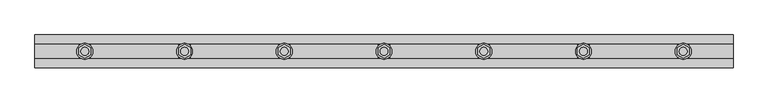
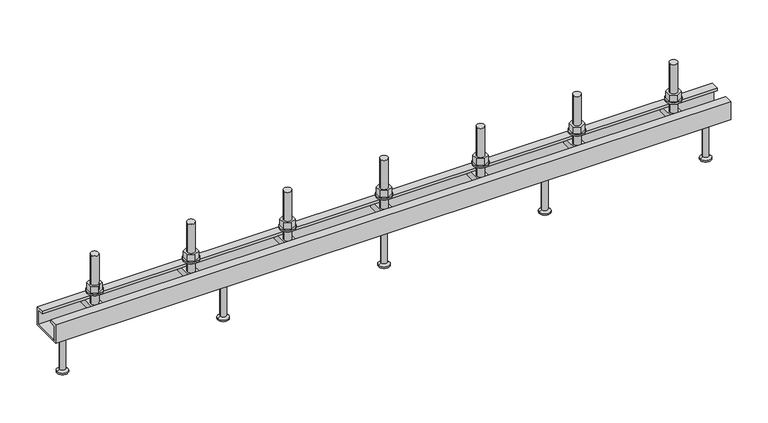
"""IFC4 building model written with IfcOpenShell, lengths in millimetres: fastener geometry, JTA-W JORDAHL® AnchorChannels : JTA-W L=1050 mm."""

from ifc_helpers import new_model, si_unit, point, frame, frame_2d, origin, place, context, project, spatial, polyline, circle_curve, trimmed, segment, composite_curve, outline, extrude, source, transform, mapped, element, save
from ifc_brep_helpers import plane_surface, cylinder_surface, revolved_surface, advanced_brep


def fastener_76e350a3(model_context):
    return source(origin(), model_context, "Body", "SolidModel", [
        extrude(outline(polyline([(825.0, -10.3923048), (816.0, -5.1961524), (816.0, 5.1961524), (825.0, 10.3923048), (834.0, 5.1961524), (834.0, -5.1961524), (825.0, -10.3923048)]), holes=[composite_curve([segment(trimmed(circle_curve(frame_2d((825.0, 0.0)), 6.0), [point((819.0, 0.0))], [point((831.0, 0.0))], True, "CARTESIAN"), True, "CONTINUOUS"), segment(trimmed(circle_curve(frame_2d((825.0, 0.0)), 6.0), [point((831.0, 0.0))], [point((819.0, 0.0))], True, "CARTESIAN"), True, "CONTINUOUS")], self_intersect=False)]), frame((0.0, 0.0, 17.5), z_axis=(0.0, 0.0, 1.0), x_axis=(1.0, 0.0, 0.0)), (0.0, 0.0, 1.0), 10.8),
        extrude(outline(composite_curve([segment(trimmed(circle_curve(frame_2d((825.0, 0.0)), 12.0), [point((813.0, 0.0))], [point((837.0, 0.0))], False, "CARTESIAN"), True, "CONTINUOUS"), segment(trimmed(circle_curve(frame_2d((825.0, 0.0)), 12.0), [point((837.0, 0.0))], [point((813.0, 0.0))], False, "CARTESIAN"), True, "CONTINUOUS")], self_intersect=False), holes=[composite_curve([segment(trimmed(circle_curve(frame_2d((825.0, 0.0)), 6.5), [point((818.5, 0.0))], [point((831.5, 0.0))], True, "CARTESIAN"), True, "CONTINUOUS"), segment(trimmed(circle_curve(frame_2d((825.0, 0.0)), 6.5), [point((831.5, 0.0))], [point((818.5, 0.0))], True, "CARTESIAN"), True, "CONTINUOUS")], self_intersect=False)]), frame((0.0, 0.0, 15.0), z_axis=(0.0, 0.0, 1.0), x_axis=(1.0, 0.0, 0.0)), (0.0, 0.0, 1.0), 2.5),
        extrude(outline(polyline([(675.0, -10.3923048), (666.0, -5.1961524), (666.0, 5.1961524), (675.0, 10.3923048), (684.0, 5.1961524), (684.0, -5.1961524), (675.0, -10.3923048)]), holes=[composite_curve([segment(trimmed(circle_curve(frame_2d((675.0, 0.0)), 6.0), [point((669.0, 0.0))], [point((681.0, 0.0))], True, "CARTESIAN"), True, "CONTINUOUS"), segment(trimmed(circle_curve(frame_2d((675.0, 0.0)), 6.0), [point((681.0, 0.0))], [point((669.0, 0.0))], True, "CARTESIAN"), True, "CONTINUOUS")], self_intersect=False)]), frame((0.0, 0.0, 17.5), z_axis=(0.0, 0.0, 1.0), x_axis=(1.0, 0.0, 0.0)), (0.0, 0.0, 1.0), 10.8),
        extrude(outline(composite_curve([segment(trimmed(circle_curve(frame_2d((675.0, 0.0)), 12.0), [point((663.0, 0.0))], [point((687.0, 0.0))], False, "CARTESIAN"), True, "CONTINUOUS"), segment(trimmed(circle_curve(frame_2d((675.0, 0.0)), 12.0), [point((687.0, 0.0))], [point((663.0, 0.0))], False, "CARTESIAN"), True, "CONTINUOUS")], self_intersect=False), holes=[composite_curve([segment(trimmed(circle_curve(frame_2d((675.0, 0.0)), 6.5), [point((668.5, 0.0))], [point((681.5, 0.0))], True, "CARTESIAN"), True, "CONTINUOUS"), segment(trimmed(circle_curve(frame_2d((675.0, 0.0)), 6.5), [point((681.5, 0.0))], [point((668.5, 0.0))], True, "CARTESIAN"), True, "CONTINUOUS")], self_intersect=False)]), frame((0.0, 0.0, 15.0), z_axis=(0.0, 0.0, 1.0), x_axis=(1.0, 0.0, 0.0)), (0.0, 0.0, 1.0), 2.5),
        extrude(outline(polyline([(525.0, -10.3923048), (516.0, -5.1961524), (516.0, 5.1961524), (525.0, 10.3923048), (534.0, 5.1961524), (534.0, -5.1961524), (525.0, -10.3923048)]), holes=[composite_curve([segment(trimmed(circle_curve(frame_2d((525.0, 0.0)), 6.0), [point((519.0, 0.0))], [point((531.0, 0.0))], True, "CARTESIAN"), True, "CONTINUOUS"), segment(trimmed(circle_curve(frame_2d((525.0, 0.0)), 6.0), [point((531.0, 0.0))], [point((519.0, 0.0))], True, "CARTESIAN"), True, "CONTINUOUS")], self_intersect=False)]), frame((0.0, 0.0, 17.5), z_axis=(0.0, 0.0, 1.0), x_axis=(1.0, 0.0, 0.0)), (0.0, 0.0, 1.0), 10.8),
        extrude(outline(composite_curve([segment(trimmed(circle_curve(frame_2d((525.0, 0.0)), 12.0), [point((513.0, 0.0))], [point((537.0, 0.0))], False, "CARTESIAN"), True, "CONTINUOUS"), segment(trimmed(circle_curve(frame_2d((525.0, 0.0)), 12.0), [point((537.0, 0.0))], [point((513.0, 0.0))], False, "CARTESIAN"), True, "CONTINUOUS")], self_intersect=False), holes=[composite_curve([segment(trimmed(circle_curve(frame_2d((525.0, 0.0)), 6.5), [point((518.5, 0.0))], [point((531.5, 0.0))], True, "CARTESIAN"), True, "CONTINUOUS"), segment(trimmed(circle_curve(frame_2d((525.0, 0.0)), 6.5), [point((531.5, 0.0))], [point((518.5, 0.0))], True, "CARTESIAN"), True, "CONTINUOUS")], self_intersect=False)]), frame((0.0, 0.0, 15.0), z_axis=(0.0, 0.0, 1.0), x_axis=(1.0, 0.0, 0.0)), (0.0, 0.0, 1.0), 2.5),
        extrude(outline(polyline([(375.0, -10.3923048), (366.0, -5.1961524), (366.0, 5.1961524), (375.0, 10.3923048), (384.0, 5.1961524), (384.0, -5.1961524), (375.0, -10.3923048)]), holes=[composite_curve([segment(trimmed(circle_curve(frame_2d((375.0, 0.0)), 6.0), [point((369.0, 0.0))], [point((381.0, 0.0))], True, "CARTESIAN"), True, "CONTINUOUS"), segment(trimmed(circle_curve(frame_2d((375.0, 0.0)), 6.0), [point((381.0, 0.0))], [point((369.0, 0.0))], True, "CARTESIAN"), True, "CONTINUOUS")], self_intersect=False)]), frame((0.0, 0.0, 17.5), z_axis=(0.0, 0.0, 1.0), x_axis=(1.0, 0.0, 0.0)), (0.0, 0.0, 1.0), 10.8),
        extrude(outline(composite_curve([segment(trimmed(circle_curve(frame_2d((375.0, 0.0)), 12.0), [point((363.0, 0.0))], [point((387.0, 0.0))], False, "CARTESIAN"), True, "CONTINUOUS"), segment(trimmed(circle_curve(frame_2d((375.0, 0.0)), 12.0), [point((387.0, 0.0))], [point((363.0, 0.0))], False, "CARTESIAN"), True, "CONTINUOUS")], self_intersect=False), holes=[composite_curve([segment(trimmed(circle_curve(frame_2d((375.0, 0.0)), 6.5), [point((368.5, 0.0))], [point((381.5, 0.0))], True, "CARTESIAN"), True, "CONTINUOUS"), segment(trimmed(circle_curve(frame_2d((375.0, 0.0)), 6.5), [point((381.5, 0.0))], [point((368.5, 0.0))], True, "CARTESIAN"), True, "CONTINUOUS")], self_intersect=False)]), frame((0.0, 0.0, 15.0), z_axis=(0.0, 0.0, 1.0), x_axis=(1.0, 0.0, 0.0)), (0.0, 0.0, 1.0), 2.5),
        extrude(outline(polyline([(225.0, -10.3923048), (216.0, -5.1961524), (216.0, 5.1961524), (225.0, 10.3923048), (234.0, 5.1961524), (234.0, -5.1961524), (225.0, -10.3923048)]), holes=[composite_curve([segment(trimmed(circle_curve(frame_2d((225.0, 0.0)), 6.0), [point((219.0, 0.0))], [point((231.0, 0.0))], True, "CARTESIAN"), True, "CONTINUOUS"), segment(trimmed(circle_curve(frame_2d((225.0, 0.0)), 6.0), [point((231.0, 0.0))], [point((219.0, 0.0))], True, "CARTESIAN"), True, "CONTINUOUS")], self_intersect=False)]), frame((0.0, 0.0, 17.5), z_axis=(0.0, 0.0, 1.0), x_axis=(1.0, 0.0, 0.0)), (0.0, 0.0, 1.0), 10.8),
        extrude(outline(composite_curve([segment(trimmed(circle_curve(frame_2d((225.0, 0.0)), 12.0), [point((213.0, 0.0))], [point((237.0, 0.0))], False, "CARTESIAN"), True, "CONTINUOUS"), segment(trimmed(circle_curve(frame_2d((225.0, 0.0)), 12.0), [point((237.0, 0.0))], [point((213.0, 0.0))], False, "CARTESIAN"), True, "CONTINUOUS")], self_intersect=False), holes=[composite_curve([segment(trimmed(circle_curve(frame_2d((225.0, 0.0)), 6.5), [point((218.5, 0.0))], [point((231.5, 0.0))], True, "CARTESIAN"), True, "CONTINUOUS"), segment(trimmed(circle_curve(frame_2d((225.0, 0.0)), 6.5), [point((231.5, 0.0))], [point((218.5, 0.0))], True, "CARTESIAN"), True, "CONTINUOUS")], self_intersect=False)]), frame((0.0, 0.0, 15.0), z_axis=(0.0, 0.0, 1.0), x_axis=(1.0, 0.0, 0.0)), (0.0, 0.0, 1.0), 2.5),
        advanced_brep(
        [(833.5, -20.7, -4.0), (833.5, -20.7, -14.0), (833.5, 20.7, -14.0), (833.5, 20.7, -4.0), (816.5, -20.7, -4.0), (816.5, 20.7, -4.0), (816.5, 20.7, -14.0), (816.5, -20.7, -14.0), (831.0, 0.0, -4.0), (819.0, 0.0, -4.0), (819.0, 0.0, 76.0), (831.0, 0.0, 76.0)],
        [
            (0, 1),
            (1, 2),
            (2, 3),
            (3, 0),
            (4, 5),
            (5, 6),
            (6, 7),
            (7, 4),
            (3, 5),
            (4, 0),
            (8, 9, circle_curve(frame((825.0, 0.0, -4.0), z_axis=(0.0, 0.0, -1.0), x_axis=(1.0, 0.0, 0.0)), 6.0)),
            (9, 8, circle_curve(frame((825.0, 0.0, -4.0), z_axis=(0.0, 0.0, -1.0), x_axis=(1.0, 0.0, 0.0)), 6.0)),
            (2, 6),
            (1, 7),
            (10, 11, circle_curve(frame((825.0, 0.0, 76.0), z_axis=(0.0, 0.0, 1.0), x_axis=(1.0, 0.0, 0.0)), 6.0)),
            (11, 10, circle_curve(frame((825.0, 0.0, 76.0), z_axis=(0.0, 0.0, 1.0), x_axis=(1.0, 0.0, 0.0)), 6.0)),
            (11, 8),
            (9, 10),
        ],
        [
            plane_surface(frame((833.5, 20.7, -4.0), z_axis=(1.0, 0.0, 0.0), x_axis=(0.0, 1.0, 0.0))),
            plane_surface(frame((816.5, 20.7, -4.0), z_axis=(-1.0, 0.0, 0.0), x_axis=(0.0, -1.0, 0.0))),
            plane_surface(frame((833.5, -20.7, -4.0), z_axis=(0.0, 0.0, 1.0), x_axis=(-1.0, 0.0, 0.0))),
            plane_surface(frame((833.5, 20.7, -4.0), z_axis=(0.0, 1.0, 0.0), x_axis=(-1.0, 0.0, 0.0))),
            plane_surface(frame((833.5, 20.7, -14.0), z_axis=(0.0, 0.0, -1.0), x_axis=(-1.0, 0.0, 0.0))),
            plane_surface(frame((833.5, -20.7, -14.0), z_axis=(0.0, -1.0, 0.0), x_axis=(-1.0, 0.0, 0.0))),
            plane_surface(frame((831.0, 0.0, 76.0), z_axis=(0.0, 0.0, 1.0), x_axis=(0.0, -1.0, 0.0))),
            cylinder_surface(frame((825.0, 0.0, -4.0), z_axis=(0.0, 0.0, 1.0), x_axis=(1.0, 0.0, 0.0)), 6.0),
        ],
        [
            (0, [[1, 2, 3, 4]]),
            (1, [[5, 6, 7, 8]]),
            (2, [[9, -5, 10, -4], [11, 12]]),
            (3, [[13, -6, -9, -3]]),
            (4, [[14, -7, -13, -2]]),
            (5, [[-10, -8, -14, -1]]),
            (6, [[15, 16]]),
            (7, [[17, -12, 18, -16]]),
            (7, [[-18, -11, -17, -15]]),
        ],
    ),
        advanced_brep(
        [(683.5, -20.7, -4.0), (683.5, -20.7, -14.0), (683.5, 20.7, -14.0), (683.5, 20.7, -4.0), (666.5, -20.7, -4.0), (666.5, 20.7, -4.0), (666.5, 20.7, -14.0), (666.5, -20.7, -14.0), (681.0, 0.0, -4.0), (669.0, 0.0, -4.0), (669.0, 0.0, 76.0), (681.0, 0.0, 76.0)],
        [
            (0, 1),
            (1, 2),
            (2, 3),
            (3, 0),
            (4, 5),
            (5, 6),
            (6, 7),
            (7, 4),
            (3, 5),
            (4, 0),
            (8, 9, circle_curve(frame((675.0, 0.0, -4.0), z_axis=(0.0, 0.0, -1.0), x_axis=(1.0, 0.0, 0.0)), 6.0)),
            (9, 8, circle_curve(frame((675.0, 0.0, -4.0), z_axis=(0.0, 0.0, -1.0), x_axis=(1.0, 0.0, 0.0)), 6.0)),
            (2, 6),
            (1, 7),
            (10, 11, circle_curve(frame((675.0, 0.0, 76.0), z_axis=(0.0, 0.0, 1.0), x_axis=(1.0, 0.0, 0.0)), 6.0)),
            (11, 10, circle_curve(frame((675.0, 0.0, 76.0), z_axis=(0.0, 0.0, 1.0), x_axis=(1.0, 0.0, 0.0)), 6.0)),
            (11, 8),
            (9, 10),
        ],
        [
            plane_surface(frame((683.5, 20.7, -4.0), z_axis=(1.0, 0.0, 0.0), x_axis=(0.0, 1.0, 0.0))),
            plane_surface(frame((666.5, 20.7, -4.0), z_axis=(-1.0, 0.0, 0.0), x_axis=(0.0, -1.0, 0.0))),
            plane_surface(frame((683.5, -20.7, -4.0), z_axis=(0.0, 0.0, 1.0), x_axis=(-1.0, 0.0, 0.0))),
            plane_surface(frame((683.5, 20.7, -4.0), z_axis=(0.0, 1.0, 0.0), x_axis=(-1.0, 0.0, 0.0))),
            plane_surface(frame((683.5, 20.7, -14.0), z_axis=(0.0, 0.0, -1.0), x_axis=(-1.0, 0.0, 0.0))),
            plane_surface(frame((683.5, -20.7, -14.0), z_axis=(0.0, -1.0, 0.0), x_axis=(-1.0, 0.0, 0.0))),
            plane_surface(frame((681.0, 0.0, 76.0), z_axis=(0.0, 0.0, 1.0), x_axis=(0.0, -1.0, 0.0))),
            cylinder_surface(frame((675.0, 0.0, -4.0), z_axis=(0.0, 0.0, 1.0), x_axis=(1.0, 0.0, 0.0)), 6.0),
        ],
        [
            (0, [[1, 2, 3, 4]]),
            (1, [[5, 6, 7, 8]]),
            (2, [[9, -5, 10, -4], [11, 12]]),
            (3, [[13, -6, -9, -3]]),
            (4, [[14, -7, -13, -2]]),
            (5, [[-10, -8, -14, -1]]),
            (6, [[15, 16]]),
            (7, [[17, -12, 18, -16]]),
            (7, [[-18, -11, -17, -15]]),
        ],
    ),
        advanced_brep(
        [(533.5, -20.7, -4.0), (533.5, -20.7, -14.0), (533.5, 20.7, -14.0), (533.5, 20.7, -4.0), (516.5, -20.7, -4.0), (516.5, 20.7, -4.0), (516.5, 20.7, -14.0), (516.5, -20.7, -14.0), (531.0, 0.0, -4.0), (519.0, 0.0, -4.0), (519.0, 0.0, 76.0), (531.0, 0.0, 76.0)],
        [
            (0, 1),
            (1, 2),
            (2, 3),
            (3, 0),
            (4, 5),
            (5, 6),
            (6, 7),
            (7, 4),
            (3, 5),
            (4, 0),
            (8, 9, circle_curve(frame((525.0, 0.0, -4.0), z_axis=(0.0, 0.0, -1.0), x_axis=(1.0, 0.0, 0.0)), 6.0)),
            (9, 8, circle_curve(frame((525.0, 0.0, -4.0), z_axis=(0.0, 0.0, -1.0), x_axis=(1.0, 0.0, 0.0)), 6.0)),
            (2, 6),
            (1, 7),
            (10, 11, circle_curve(frame((525.0, 0.0, 76.0), z_axis=(0.0, 0.0, 1.0), x_axis=(1.0, 0.0, 0.0)), 6.0)),
            (11, 10, circle_curve(frame((525.0, 0.0, 76.0), z_axis=(0.0, 0.0, 1.0), x_axis=(1.0, 0.0, 0.0)), 6.0)),
            (11, 8),
            (9, 10),
        ],
        [
            plane_surface(frame((533.5, 20.7, -4.0), z_axis=(1.0, 0.0, 0.0), x_axis=(0.0, 1.0, 0.0))),
            plane_surface(frame((516.5, 20.7, -4.0), z_axis=(-1.0, 0.0, 0.0), x_axis=(0.0, -1.0, 0.0))),
            plane_surface(frame((533.5, -20.7, -4.0), z_axis=(0.0, 0.0, 1.0), x_axis=(-1.0, 0.0, 0.0))),
            plane_surface(frame((533.5, 20.7, -4.0), z_axis=(0.0, 1.0, 0.0), x_axis=(-1.0, 0.0, 0.0))),
            plane_surface(frame((533.5, 20.7, -14.0), z_axis=(0.0, 0.0, -1.0), x_axis=(-1.0, 0.0, 0.0))),
            plane_surface(frame((533.5, -20.7, -14.0), z_axis=(0.0, -1.0, 0.0), x_axis=(-1.0, 0.0, 0.0))),
            plane_surface(frame((531.0, 0.0, 76.0), z_axis=(0.0, 0.0, 1.0), x_axis=(0.0, -1.0, 0.0))),
            cylinder_surface(frame((525.0, 0.0, -4.0), z_axis=(0.0, 0.0, 1.0), x_axis=(1.0, 0.0, 0.0)), 6.0),
        ],
        [
            (0, [[1, 2, 3, 4]]),
            (1, [[5, 6, 7, 8]]),
            (2, [[9, -5, 10, -4], [11, 12]]),
            (3, [[13, -6, -9, -3]]),
            (4, [[14, -7, -13, -2]]),
            (5, [[-10, -8, -14, -1]]),
            (6, [[15, 16]]),
            (7, [[17, -12, 18, -16]]),
            (7, [[-18, -11, -17, -15]]),
        ],
    ),
        advanced_brep(
        [(383.5, -20.7, -4.0), (383.5, -20.7, -14.0), (383.5, 20.7, -14.0), (383.5, 20.7, -4.0), (366.5, -20.7, -4.0), (366.5, 20.7, -4.0), (366.5, 20.7, -14.0), (366.5, -20.7, -14.0), (381.0, 0.0, -4.0), (369.0, 0.0, -4.0), (369.0, 0.0, 76.0), (381.0, 0.0, 76.0)],
        [
            (0, 1),
            (1, 2),
            (2, 3),
            (3, 0),
            (4, 5),
            (5, 6),
            (6, 7),
            (7, 4),
            (3, 5),
            (4, 0),
            (8, 9, circle_curve(frame((375.0, 0.0, -4.0), z_axis=(0.0, 0.0, -1.0), x_axis=(1.0, 0.0, 0.0)), 6.0)),
            (9, 8, circle_curve(frame((375.0, 0.0, -4.0), z_axis=(0.0, 0.0, -1.0), x_axis=(1.0, 0.0, 0.0)), 6.0)),
            (2, 6),
            (1, 7),
            (10, 11, circle_curve(frame((375.0, 0.0, 76.0), z_axis=(0.0, 0.0, 1.0), x_axis=(1.0, 0.0, 0.0)), 6.0)),
            (11, 10, circle_curve(frame((375.0, 0.0, 76.0), z_axis=(0.0, 0.0, 1.0), x_axis=(1.0, 0.0, 0.0)), 6.0)),
            (11, 8),
            (9, 10),
        ],
        [
            plane_surface(frame((383.5, 20.7, -4.0), z_axis=(1.0, 0.0, 0.0), x_axis=(0.0, 1.0, 0.0))),
            plane_surface(frame((366.5, 20.7, -4.0), z_axis=(-1.0, 0.0, 0.0), x_axis=(0.0, -1.0, 0.0))),
            plane_surface(frame((383.5, -20.7, -4.0), z_axis=(0.0, 0.0, 1.0), x_axis=(-1.0, 0.0, 0.0))),
            plane_surface(frame((383.5, 20.7, -4.0), z_axis=(0.0, 1.0, 0.0), x_axis=(-1.0, 0.0, 0.0))),
            plane_surface(frame((383.5, 20.7, -14.0), z_axis=(0.0, 0.0, -1.0), x_axis=(-1.0, 0.0, 0.0))),
            plane_surface(frame((383.5, -20.7, -14.0), z_axis=(0.0, -1.0, 0.0), x_axis=(-1.0, 0.0, 0.0))),
            plane_surface(frame((381.0, 0.0, 76.0), z_axis=(0.0, 0.0, 1.0), x_axis=(0.0, -1.0, 0.0))),
            cylinder_surface(frame((375.0, 0.0, -4.0), z_axis=(0.0, 0.0, 1.0), x_axis=(1.0, 0.0, 0.0)), 6.0),
        ],
        [
            (0, [[1, 2, 3, 4]]),
            (1, [[5, 6, 7, 8]]),
            (2, [[9, -5, 10, -4], [11, 12]]),
            (3, [[13, -6, -9, -3]]),
            (4, [[14, -7, -13, -2]]),
            (5, [[-10, -8, -14, -1]]),
            (6, [[15, 16]]),
            (7, [[17, -12, 18, -16]]),
            (7, [[-18, -11, -17, -15]]),
        ],
    ),
        advanced_brep(
        [(233.5, -20.7, -4.0), (233.5, -20.7, -14.0), (233.5, 20.7, -14.0), (233.5, 20.7, -4.0), (216.5, -20.7, -4.0), (216.5, 20.7, -4.0), (216.5, 20.7, -14.0), (216.5, -20.7, -14.0), (231.0, 0.0, -4.0), (219.0, 0.0, -4.0), (219.0, 0.0, 76.0), (231.0, 0.0, 76.0)],
        [
            (0, 1),
            (1, 2),
            (2, 3),
            (3, 0),
            (4, 5),
            (5, 6),
            (6, 7),
            (7, 4),
            (3, 5),
            (4, 0),
            (8, 9, circle_curve(frame((225.0, 0.0, -4.0), z_axis=(0.0, 0.0, -1.0), x_axis=(1.0, 0.0, 0.0)), 6.0)),
            (9, 8, circle_curve(frame((225.0, 0.0, -4.0), z_axis=(0.0, 0.0, -1.0), x_axis=(1.0, 0.0, 0.0)), 6.0)),
            (2, 6),
            (1, 7),
            (10, 11, circle_curve(frame((225.0, 0.0, 76.0), z_axis=(0.0, 0.0, 1.0), x_axis=(1.0, 0.0, 0.0)), 6.0)),
            (11, 10, circle_curve(frame((225.0, 0.0, 76.0), z_axis=(0.0, 0.0, 1.0), x_axis=(1.0, 0.0, 0.0)), 6.0)),
            (11, 8),
            (9, 10),
        ],
        [
            plane_surface(frame((233.5, 20.7, -4.0), z_axis=(1.0, 0.0, 0.0), x_axis=(0.0, 1.0, 0.0))),
            plane_surface(frame((216.5, 20.7, -4.0), z_axis=(-1.0, 0.0, 0.0), x_axis=(0.0, -1.0, 0.0))),
            plane_surface(frame((233.5, -20.7, -4.0), z_axis=(0.0, 0.0, 1.0), x_axis=(-1.0, 0.0, 0.0))),
            plane_surface(frame((233.5, 20.7, -4.0), z_axis=(0.0, 1.0, 0.0), x_axis=(-1.0, 0.0, 0.0))),
            plane_surface(frame((233.5, 20.7, -14.0), z_axis=(0.0, 0.0, -1.0), x_axis=(-1.0, 0.0, 0.0))),
            plane_surface(frame((233.5, -20.7, -14.0), z_axis=(0.0, -1.0, 0.0), x_axis=(-1.0, 0.0, 0.0))),
            plane_surface(frame((231.0, 0.0, 76.0), z_axis=(0.0, 0.0, 1.0), x_axis=(0.0, -1.0, 0.0))),
            cylinder_surface(frame((225.0, 0.0, -4.0), z_axis=(0.0, 0.0, 1.0), x_axis=(1.0, 0.0, 0.0)), 6.0),
        ],
        [
            (0, [[1, 2, 3, 4]]),
            (1, [[5, 6, 7, 8]]),
            (2, [[9, -5, 10, -4], [11, 12]]),
            (3, [[13, -6, -9, -3]]),
            (4, [[14, -7, -13, -2]]),
            (5, [[-10, -8, -14, -1]]),
            (6, [[15, 16]]),
            (7, [[17, -12, 18, -16]]),
            (7, [[-18, -11, -17, -15]]),
        ],
    ),
        advanced_brep(
        [(775.0, 0.0, -30.0), (761.5, 0.0, -30.0), (788.5, 0.0, -30.0), (766.5, 0.0, -100.0), (775.0, 0.0, -100.0), (783.5, 0.0, -100.0), (766.5, 0.0, -98.0), (783.5, 0.0, -98.0), (770.5, 0.0, -95.6905989), (779.5, 0.0, -95.6905989), (770.5, 0.0, -32.5), (779.5, 0.0, -32.5)],
        [
            (0, 1),
            (1, 2, circle_curve(frame((775.0, 0.0, -30.0), z_axis=(0.0, 0.0, 1.0), x_axis=(1.0, 0.0, 0.0)), 13.5)),
            (2, 0),
            (2, 1, circle_curve(frame((775.0, 0.0, -30.0), z_axis=(0.0, 0.0, 1.0), x_axis=(1.0, 0.0, 0.0)), 13.5)),
            (3, 4),
            (4, 5),
            (5, 3, circle_curve(frame((775.0, 0.0, -100.0), z_axis=(0.0, 0.0, -1.0), x_axis=(1.0, 0.0, 0.0)), 8.5)),
            (3, 5, circle_curve(frame((775.0, 0.0, -100.0), z_axis=(0.0, 0.0, -1.0), x_axis=(1.0, 0.0, 0.0)), 8.5)),
            (6, 3),
            (5, 7),
            (7, 6, circle_curve(frame((775.0, 0.0, -98.0), z_axis=(0.0, 0.0, -1.0), x_axis=(1.0, 0.0, 0.0)), 8.5)),
            (6, 7, circle_curve(frame((775.0, 0.0, -98.0), z_axis=(0.0, 0.0, -1.0), x_axis=(1.0, 0.0, 0.0)), 8.5)),
            (8, 6),
            (7, 9),
            (9, 8, circle_curve(frame((775.0, 0.0, -95.6905989), z_axis=(0.0, 0.0, -1.0), x_axis=(1.0, 0.0, 0.0)), 4.5)),
            (8, 9, circle_curve(frame((775.0, 0.0, -95.6905989), z_axis=(0.0, 0.0, -1.0), x_axis=(1.0, 0.0, 0.0)), 4.5)),
            (10, 8),
            (9, 11),
            (11, 10, circle_curve(frame((775.0, 0.0, -32.5), z_axis=(0.0, 0.0, -1.0), x_axis=(1.0, 0.0, 0.0)), 4.5)),
            (10, 11, circle_curve(frame((775.0, 0.0, -32.5), z_axis=(0.0, 0.0, -1.0), x_axis=(1.0, 0.0, 0.0)), 4.5)),
            (1, 10),
            (11, 2),
        ],
        [
            plane_surface(frame((775.0, 0.0, -30.0), z_axis=(0.0, 0.0, 1.0), x_axis=(1.0, 0.0, 0.0))),
            plane_surface(frame((775.0, 0.0, -100.0), z_axis=(0.0, 0.0, -1.0), x_axis=(1.0, 0.0, 0.0))),
            cylinder_surface(frame((775.0, 0.0, 2284.3150031), z_axis=(0.0, 0.0, 1.0), x_axis=(1.0, 0.0, 0.0)), 8.5),
            revolved_surface(polyline([(783.5, 0.0, -98.0), (779.5, 0.0, -95.6905989)]), (775.0, 0.0, 2284.3150031), (0.0, 0.0, 1.0)),
            cylinder_surface(frame((775.0, 0.0, 2284.3150031), z_axis=(0.0, 0.0, 1.0), x_axis=(1.0, 0.0, 0.0)), 4.5),
            revolved_surface(polyline([(779.5, 0.0, -32.5), (788.5, 0.0, -30.0)]), (775.0, 0.0, 2284.3150031), (0.0, 0.0, 1.0)),
        ],
        [
            (0, [[1, 2, 3]]),
            (0, [[-3, 4, -1]]),
            (1, [[5, 6, 7]]),
            (1, [[-6, -5, 8]]),
            (2, [[9, -7, 10, 11]]),
            (2, [[-10, -8, -9, 12]]),
            (3, [[13, -11, 14, 15]]),
            (3, [[-14, -12, -13, 16]]),
            (4, [[17, -15, 18, 19]]),
            (4, [[-18, -16, -17, 20]]),
            (5, [[21, -19, 22, -2]]),
            (5, [[-22, -20, -21, -4]]),
        ],
    ),
        advanced_brep(
        [(525.0, 0.0, -30.0), (511.5, 0.0, -30.0), (538.5, 0.0, -30.0), (516.5, 0.0, -100.0), (525.0, 0.0, -100.0), (533.5, 0.0, -100.0), (516.5, 0.0, -98.0), (533.5, 0.0, -98.0), (520.5, 0.0, -95.6905989), (529.5, 0.0, -95.6905989), (520.5, 0.0, -32.5), (529.5, 0.0, -32.5)],
        [
            (0, 1),
            (1, 2, circle_curve(frame((525.0, 0.0, -30.0), z_axis=(0.0, 0.0, 1.0), x_axis=(1.0, 0.0, 0.0)), 13.5)),
            (2, 0),
            (2, 1, circle_curve(frame((525.0, 0.0, -30.0), z_axis=(0.0, 0.0, 1.0), x_axis=(1.0, 0.0, 0.0)), 13.5)),
            (3, 4),
            (4, 5),
            (5, 3, circle_curve(frame((525.0, 0.0, -100.0), z_axis=(0.0, 0.0, -1.0), x_axis=(1.0, 0.0, 0.0)), 8.5)),
            (3, 5, circle_curve(frame((525.0, 0.0, -100.0), z_axis=(0.0, 0.0, -1.0), x_axis=(1.0, 0.0, 0.0)), 8.5)),
            (6, 3),
            (5, 7),
            (7, 6, circle_curve(frame((525.0, 0.0, -98.0), z_axis=(0.0, 0.0, -1.0), x_axis=(1.0, 0.0, 0.0)), 8.5)),
            (6, 7, circle_curve(frame((525.0, 0.0, -98.0), z_axis=(0.0, 0.0, -1.0), x_axis=(1.0, 0.0, 0.0)), 8.5)),
            (8, 6),
            (7, 9),
            (9, 8, circle_curve(frame((525.0, 0.0, -95.6905989), z_axis=(0.0, 0.0, -1.0), x_axis=(1.0, 0.0, 0.0)), 4.5)),
            (8, 9, circle_curve(frame((525.0, 0.0, -95.6905989), z_axis=(0.0, 0.0, -1.0), x_axis=(1.0, 0.0, 0.0)), 4.5)),
            (10, 8),
            (9, 11),
            (11, 10, circle_curve(frame((525.0, 0.0, -32.5), z_axis=(0.0, 0.0, -1.0), x_axis=(1.0, 0.0, 0.0)), 4.5)),
            (10, 11, circle_curve(frame((525.0, 0.0, -32.5), z_axis=(0.0, 0.0, -1.0), x_axis=(1.0, 0.0, 0.0)), 4.5)),
            (1, 10),
            (11, 2),
        ],
        [
            plane_surface(frame((525.0, 0.0, -30.0), z_axis=(0.0, 0.0, 1.0), x_axis=(1.0, 0.0, 0.0))),
            plane_surface(frame((525.0, 0.0, -100.0), z_axis=(0.0, 0.0, -1.0), x_axis=(1.0, 0.0, 0.0))),
            cylinder_surface(frame((525.0, 0.0, 2284.3150031), z_axis=(0.0, 0.0, 1.0), x_axis=(1.0, 0.0, 0.0)), 8.5),
            revolved_surface(polyline([(533.5, 0.0, -98.0), (529.5, 0.0, -95.6905989)]), (525.0, 0.0, 2284.3150031), (0.0, 0.0, 1.0)),
            cylinder_surface(frame((525.0, 0.0, 2284.3150031), z_axis=(0.0, 0.0, 1.0), x_axis=(1.0, 0.0, 0.0)), 4.5),
            revolved_surface(polyline([(529.5, 0.0, -32.5), (538.5, 0.0, -30.0)]), (525.0, 0.0, 2284.3150031), (0.0, 0.0, 1.0)),
        ],
        [
            (0, [[1, 2, 3]]),
            (0, [[-3, 4, -1]]),
            (1, [[5, 6, 7]]),
            (1, [[-6, -5, 8]]),
            (2, [[9, -7, 10, 11]]),
            (2, [[-10, -8, -9, 12]]),
            (3, [[13, -11, 14, 15]]),
            (3, [[-14, -12, -13, 16]]),
            (4, [[17, -15, 18, 19]]),
            (4, [[-18, -16, -17, 20]]),
            (5, [[21, -19, 22, -2]]),
            (5, [[-22, -20, -21, -4]]),
        ],
    ),
        advanced_brep(
        [(275.0, 0.0, -30.0), (261.5, 0.0, -30.0), (288.5, 0.0, -30.0), (266.5, 0.0, -100.0), (275.0, 0.0, -100.0), (283.5, 0.0, -100.0), (266.5, 0.0, -98.0), (283.5, 0.0, -98.0), (270.5, 0.0, -95.6905989), (279.5, 0.0, -95.6905989), (270.5, 0.0, -32.5), (279.5, 0.0, -32.5)],
        [
            (0, 1),
            (1, 2, circle_curve(frame((275.0, 0.0, -30.0), z_axis=(0.0, 0.0, 1.0), x_axis=(1.0, 0.0, 0.0)), 13.5)),
            (2, 0),
            (2, 1, circle_curve(frame((275.0, 0.0, -30.0), z_axis=(0.0, 0.0, 1.0), x_axis=(1.0, 0.0, 0.0)), 13.5)),
            (3, 4),
            (4, 5),
            (5, 3, circle_curve(frame((275.0, 0.0, -100.0), z_axis=(0.0, 0.0, -1.0), x_axis=(1.0, 0.0, 0.0)), 8.5)),
            (3, 5, circle_curve(frame((275.0, 0.0, -100.0), z_axis=(0.0, 0.0, -1.0), x_axis=(1.0, 0.0, 0.0)), 8.5)),
            (6, 3),
            (5, 7),
            (7, 6, circle_curve(frame((275.0, 0.0, -98.0), z_axis=(0.0, 0.0, -1.0), x_axis=(1.0, 0.0, 0.0)), 8.5)),
            (6, 7, circle_curve(frame((275.0, 0.0, -98.0), z_axis=(0.0, 0.0, -1.0), x_axis=(1.0, 0.0, 0.0)), 8.5)),
            (8, 6),
            (7, 9),
            (9, 8, circle_curve(frame((275.0, 0.0, -95.6905989), z_axis=(0.0, 0.0, -1.0), x_axis=(1.0, 0.0, 0.0)), 4.5)),
            (8, 9, circle_curve(frame((275.0, 0.0, -95.6905989), z_axis=(0.0, 0.0, -1.0), x_axis=(1.0, 0.0, 0.0)), 4.5)),
            (10, 8),
            (9, 11),
            (11, 10, circle_curve(frame((275.0, 0.0, -32.5), z_axis=(0.0, 0.0, -1.0), x_axis=(1.0, 0.0, 0.0)), 4.5)),
            (10, 11, circle_curve(frame((275.0, 0.0, -32.5), z_axis=(0.0, 0.0, -1.0), x_axis=(1.0, 0.0, 0.0)), 4.5)),
            (1, 10),
            (11, 2),
        ],
        [
            plane_surface(frame((275.0, 0.0, -30.0), z_axis=(0.0, 0.0, 1.0), x_axis=(1.0, 0.0, 0.0))),
            plane_surface(frame((275.0, 0.0, -100.0), z_axis=(0.0, 0.0, -1.0), x_axis=(1.0, 0.0, 0.0))),
            cylinder_surface(frame((275.0, 0.0, 2284.3150031), z_axis=(0.0, 0.0, 1.0), x_axis=(1.0, 0.0, 0.0)), 8.5),
            revolved_surface(polyline([(283.5, 0.0, -98.0), (279.5, 0.0, -95.6905989)]), (275.0, 0.0, 2284.3150031), (0.0, 0.0, 1.0)),
            cylinder_surface(frame((275.0, 0.0, 2284.3150031), z_axis=(0.0, 0.0, 1.0), x_axis=(1.0, 0.0, 0.0)), 4.5),
            revolved_surface(polyline([(279.5, 0.0, -32.5), (288.5, 0.0, -30.0)]), (275.0, 0.0, 2284.3150031), (0.0, 0.0, 1.0)),
        ],
        [
            (0, [[1, 2, 3]]),
            (0, [[-3, 4, -1]]),
            (1, [[5, 6, 7]]),
            (1, [[-6, -5, 8]]),
            (2, [[9, -7, 10, 11]]),
            (2, [[-10, -8, -9, 12]]),
            (3, [[13, -11, 14, 15]]),
            (3, [[-14, -12, -13, 16]]),
            (4, [[17, -15, 18, 19]]),
            (4, [[-18, -16, -17, 20]]),
            (5, [[21, -19, 22, -2]]),
            (5, [[-22, -20, -21, -4]]),
        ],
    ),
        extrude(outline(polyline([(975.0, -10.3923048), (966.0, -5.1961524), (966.0, 5.1961524), (975.0, 10.3923048), (984.0, 5.1961524), (984.0, -5.1961524), (975.0, -10.3923048)]), holes=[composite_curve([segment(trimmed(circle_curve(frame_2d((975.0, 0.0)), 6.0), [point((969.0, 0.0))], [point((981.0, 0.0))], True, "CARTESIAN"), True, "CONTINUOUS"), segment(trimmed(circle_curve(frame_2d((975.0, 0.0)), 6.0), [point((981.0, 0.0))], [point((969.0, 0.0))], True, "CARTESIAN"), True, "CONTINUOUS")], self_intersect=False)]), frame((0.0, 0.0, 17.5), z_axis=(0.0, 0.0, 1.0), x_axis=(1.0, 0.0, 0.0)), (0.0, 0.0, 1.0), 10.8),
        extrude(outline(composite_curve([segment(trimmed(circle_curve(frame_2d((975.0, 0.0)), 12.0), [point((963.0, 0.0))], [point((987.0, 0.0))], False, "CARTESIAN"), True, "CONTINUOUS"), segment(trimmed(circle_curve(frame_2d((975.0, 0.0)), 12.0), [point((987.0, 0.0))], [point((963.0, 0.0))], False, "CARTESIAN"), True, "CONTINUOUS")], self_intersect=False), holes=[composite_curve([segment(trimmed(circle_curve(frame_2d((975.0, 0.0)), 6.5), [point((968.5, 0.0))], [point((981.5, 0.0))], True, "CARTESIAN"), True, "CONTINUOUS"), segment(trimmed(circle_curve(frame_2d((975.0, 0.0)), 6.5), [point((981.5, 0.0))], [point((968.5, 0.0))], True, "CARTESIAN"), True, "CONTINUOUS")], self_intersect=False)]), frame((0.0, 0.0, 15.0), z_axis=(0.0, 0.0, 1.0), x_axis=(1.0, 0.0, 0.0)), (0.0, 0.0, 1.0), 2.5),
        extrude(outline(polyline([(75.0, -10.3923048), (66.0, -5.1961524), (66.0, 5.1961524), (75.0, 10.3923048), (84.0, 5.1961524), (84.0, -5.1961524), (75.0, -10.3923048)]), holes=[composite_curve([segment(trimmed(circle_curve(frame_2d((75.0, 0.0)), 6.0), [point((69.0, 0.0))], [point((81.0, 0.0))], True, "CARTESIAN"), True, "CONTINUOUS"), segment(trimmed(circle_curve(frame_2d((75.0, 0.0)), 6.0), [point((81.0, 0.0))], [point((69.0, 0.0))], True, "CARTESIAN"), True, "CONTINUOUS")], self_intersect=False)]), frame((0.0, 0.0, 17.5), z_axis=(0.0, 0.0, 1.0), x_axis=(1.0, 0.0, 0.0)), (0.0, 0.0, 1.0), 10.8),
        extrude(outline(composite_curve([segment(trimmed(circle_curve(frame_2d((75.0, 0.0)), 12.0), [point((63.0, 0.0))], [point((87.0, 0.0))], False, "CARTESIAN"), True, "CONTINUOUS"), segment(trimmed(circle_curve(frame_2d((75.0, 0.0)), 12.0), [point((87.0, 0.0))], [point((63.0, 0.0))], False, "CARTESIAN"), True, "CONTINUOUS")], self_intersect=False), holes=[composite_curve([segment(trimmed(circle_curve(frame_2d((75.0, 0.0)), 6.5), [point((68.5, 0.0))], [point((81.5, 0.0))], True, "CARTESIAN"), True, "CONTINUOUS"), segment(trimmed(circle_curve(frame_2d((75.0, 0.0)), 6.5), [point((81.5, 0.0))], [point((68.5, 0.0))], True, "CARTESIAN"), True, "CONTINUOUS")], self_intersect=False)]), frame((0.0, 0.0, 15.0), z_axis=(0.0, 0.0, 1.0), x_axis=(1.0, 0.0, 0.0)), (0.0, 0.0, 1.0), 2.5),
        advanced_brep(
        [(983.5, -20.7, -4.0), (983.5, -20.7, -14.0), (983.5, 20.7, -14.0), (983.5, 20.7, -4.0), (966.5, -20.7, -4.0), (966.5, 20.7, -4.0), (966.5, 20.7, -14.0), (966.5, -20.7, -14.0), (981.0, 0.0, -4.0), (969.0, 0.0, -4.0), (969.0, 0.0, 76.0), (981.0, 0.0, 76.0)],
        [
            (0, 1),
            (1, 2),
            (2, 3),
            (3, 0),
            (4, 5),
            (5, 6),
            (6, 7),
            (7, 4),
            (3, 5),
            (4, 0),
            (8, 9, circle_curve(frame((975.0, 0.0, -4.0), z_axis=(0.0, 0.0, -1.0), x_axis=(1.0, 0.0, 0.0)), 6.0)),
            (9, 8, circle_curve(frame((975.0, 0.0, -4.0), z_axis=(0.0, 0.0, -1.0), x_axis=(1.0, 0.0, 0.0)), 6.0)),
            (2, 6),
            (1, 7),
            (10, 11, circle_curve(frame((975.0, 0.0, 76.0), z_axis=(0.0, 0.0, 1.0), x_axis=(1.0, 0.0, 0.0)), 6.0)),
            (11, 10, circle_curve(frame((975.0, 0.0, 76.0), z_axis=(0.0, 0.0, 1.0), x_axis=(1.0, 0.0, 0.0)), 6.0)),
            (11, 8),
            (9, 10),
        ],
        [
            plane_surface(frame((983.5, 20.7, -4.0), z_axis=(1.0, 0.0, 0.0), x_axis=(0.0, 1.0, 0.0))),
            plane_surface(frame((966.5, 20.7, -4.0), z_axis=(-1.0, 0.0, 0.0), x_axis=(0.0, -1.0, 0.0))),
            plane_surface(frame((983.5, -20.7, -4.0), z_axis=(0.0, 0.0, 1.0), x_axis=(-1.0, 0.0, 0.0))),
            plane_surface(frame((983.5, 20.7, -4.0), z_axis=(0.0, 1.0, 0.0), x_axis=(-1.0, 0.0, 0.0))),
            plane_surface(frame((983.5, 20.7, -14.0), z_axis=(0.0, 0.0, -1.0), x_axis=(-1.0, 0.0, 0.0))),
            plane_surface(frame((983.5, -20.7, -14.0), z_axis=(0.0, -1.0, 0.0), x_axis=(-1.0, 0.0, 0.0))),
            plane_surface(frame((981.0, 0.0, 76.0), z_axis=(0.0, 0.0, 1.0), x_axis=(0.0, -1.0, 0.0))),
            cylinder_surface(frame((975.0, 0.0, -4.0), z_axis=(0.0, 0.0, 1.0), x_axis=(1.0, 0.0, 0.0)), 6.0),
        ],
        [
            (0, [[1, 2, 3, 4]]),
            (1, [[5, 6, 7, 8]]),
            (2, [[9, -5, 10, -4], [11, 12]]),
            (3, [[13, -6, -9, -3]]),
            (4, [[14, -7, -13, -2]]),
            (5, [[-10, -8, -14, -1]]),
            (6, [[15, 16]]),
            (7, [[17, -12, 18, -16]]),
            (7, [[-18, -11, -17, -15]]),
        ],
    ),
        advanced_brep(
        [(83.5, -20.7, -4.0), (83.5, -20.7, -14.0), (83.5, 20.7, -14.0), (83.5, 20.7, -4.0), (66.5, -20.7, -4.0), (66.5, 20.7, -4.0), (66.5, 20.7, -14.0), (66.5, -20.7, -14.0), (81.0, 0.0, -4.0), (69.0, 0.0, -4.0), (69.0, 0.0, 76.0), (81.0, 0.0, 76.0)],
        [
            (0, 1),
            (1, 2),
            (2, 3),
            (3, 0),
            (4, 5),
            (5, 6),
            (6, 7),
            (7, 4),
            (3, 5),
            (4, 0),
            (8, 9, circle_curve(frame((75.0, 0.0, -4.0), z_axis=(0.0, 0.0, -1.0), x_axis=(1.0, 0.0, 0.0)), 6.0)),
            (9, 8, circle_curve(frame((75.0, 0.0, -4.0), z_axis=(0.0, 0.0, -1.0), x_axis=(1.0, 0.0, 0.0)), 6.0)),
            (2, 6),
            (1, 7),
            (10, 11, circle_curve(frame((75.0, 0.0, 76.0), z_axis=(0.0, 0.0, 1.0), x_axis=(1.0, 0.0, 0.0)), 6.0)),
            (11, 10, circle_curve(frame((75.0, 0.0, 76.0), z_axis=(0.0, 0.0, 1.0), x_axis=(1.0, 0.0, 0.0)), 6.0)),
            (11, 8),
            (9, 10),
        ],
        [
            plane_surface(frame((83.5, 20.7, -4.0), z_axis=(1.0, 0.0, 0.0), x_axis=(0.0, 1.0, 0.0))),
            plane_surface(frame((66.5, 20.7, -4.0), z_axis=(-1.0, 0.0, 0.0), x_axis=(0.0, -1.0, 0.0))),
            plane_surface(frame((83.5, -20.7, -4.0), z_axis=(0.0, 0.0, 1.0), x_axis=(-1.0, 0.0, 0.0))),
            plane_surface(frame((83.5, 20.7, -4.0), z_axis=(0.0, 1.0, 0.0), x_axis=(-1.0, 0.0, 0.0))),
            plane_surface(frame((83.5, 20.7, -14.0), z_axis=(0.0, 0.0, -1.0), x_axis=(-1.0, 0.0, 0.0))),
            plane_surface(frame((83.5, -20.7, -14.0), z_axis=(0.0, -1.0, 0.0), x_axis=(-1.0, 0.0, 0.0))),
            plane_surface(frame((81.0, 0.0, 76.0), z_axis=(0.0, 0.0, 1.0), x_axis=(0.0, -1.0, 0.0))),
            cylinder_surface(frame((75.0, 0.0, -4.0), z_axis=(0.0, 0.0, 1.0), x_axis=(1.0, 0.0, 0.0)), 6.0),
        ],
        [
            (0, [[1, 2, 3, 4]]),
            (1, [[5, 6, 7, 8]]),
            (2, [[9, -5, 10, -4], [11, 12]]),
            (3, [[13, -6, -9, -3]]),
            (4, [[14, -7, -13, -2]]),
            (5, [[-10, -8, -14, -1]]),
            (6, [[15, 16]]),
            (7, [[17, -12, 18, -16]]),
            (7, [[-18, -11, -17, -15]]),
        ],
    ),
        advanced_brep(
        [(1025.0, 0.0, -30.0), (1011.5, 0.0, -30.0), (1038.5, 0.0, -30.0), (1016.5, 0.0, -100.0), (1025.0, 0.0, -100.0), (1033.5, 0.0, -100.0), (1016.5, 0.0, -98.0), (1033.5, 0.0, -98.0), (1020.5, 0.0, -95.6905989), (1029.5, 0.0, -95.6905989), (1020.5, 0.0, -32.5), (1029.5, 0.0, -32.5)],
        [
            (0, 1),
            (1, 2, circle_curve(frame((1025.0, 0.0, -30.0), z_axis=(0.0, 0.0, 1.0), x_axis=(1.0, 0.0, 0.0)), 13.5)),
            (2, 0),
            (2, 1, circle_curve(frame((1025.0, 0.0, -30.0), z_axis=(0.0, 0.0, 1.0), x_axis=(1.0, 0.0, 0.0)), 13.5)),
            (3, 4),
            (4, 5),
            (5, 3, circle_curve(frame((1025.0, 0.0, -100.0), z_axis=(0.0, 0.0, -1.0), x_axis=(1.0, 0.0, 0.0)), 8.5)),
            (3, 5, circle_curve(frame((1025.0, 0.0, -100.0), z_axis=(0.0, 0.0, -1.0), x_axis=(1.0, 0.0, 0.0)), 8.5)),
            (6, 3),
            (5, 7),
            (7, 6, circle_curve(frame((1025.0, 0.0, -98.0), z_axis=(0.0, 0.0, -1.0), x_axis=(1.0, 0.0, 0.0)), 8.5)),
            (6, 7, circle_curve(frame((1025.0, 0.0, -98.0), z_axis=(0.0, 0.0, -1.0), x_axis=(1.0, 0.0, 0.0)), 8.5)),
            (8, 6),
            (7, 9),
            (9, 8, circle_curve(frame((1025.0, 0.0, -95.6905989), z_axis=(0.0, 0.0, -1.0), x_axis=(1.0, 0.0, 0.0)), 4.5)),
            (8, 9, circle_curve(frame((1025.0, 0.0, -95.6905989), z_axis=(0.0, 0.0, -1.0), x_axis=(1.0, 0.0, 0.0)), 4.5)),
            (10, 8),
            (9, 11),
            (11, 10, circle_curve(frame((1025.0, 0.0, -32.5), z_axis=(0.0, 0.0, -1.0), x_axis=(1.0, 0.0, 0.0)), 4.5)),
            (10, 11, circle_curve(frame((1025.0, 0.0, -32.5), z_axis=(0.0, 0.0, -1.0), x_axis=(1.0, 0.0, 0.0)), 4.5)),
            (1, 10),
            (11, 2),
        ],
        [
            plane_surface(frame((1025.0, 0.0, -30.0), z_axis=(0.0, 0.0, 1.0), x_axis=(1.0, 0.0, 0.0))),
            plane_surface(frame((1025.0, 0.0, -100.0), z_axis=(0.0, 0.0, -1.0), x_axis=(1.0, 0.0, 0.0))),
            cylinder_surface(frame((1025.0, 0.0, 2284.3150031), z_axis=(0.0, 0.0, 1.0), x_axis=(1.0, 0.0, 0.0)), 8.5),
            revolved_surface(polyline([(1033.5, 0.0, -98.0), (1029.5, 0.0, -95.6905989)]), (1025.0, 0.0, 2284.3150031), (0.0, 0.0, 1.0)),
            cylinder_surface(frame((1025.0, 0.0, 2284.3150031), z_axis=(0.0, 0.0, 1.0), x_axis=(1.0, 0.0, 0.0)), 4.5),
            revolved_surface(polyline([(1029.5, 0.0, -32.5), (1038.5, 0.0, -30.0)]), (1025.0, 0.0, 2284.3150031), (0.0, 0.0, 1.0)),
        ],
        [
            (0, [[1, 2, 3]]),
            (0, [[-3, 4, -1]]),
            (1, [[5, 6, 7]]),
            (1, [[-6, -5, 8]]),
            (2, [[9, -7, 10, 11]]),
            (2, [[-10, -8, -9, 12]]),
            (3, [[13, -11, 14, 15]]),
            (3, [[-14, -12, -13, 16]]),
            (4, [[17, -15, 18, 19]]),
            (4, [[-18, -16, -17, 20]]),
            (5, [[21, -19, 22, -2]]),
            (5, [[-22, -20, -21, -4]]),
        ],
    ),
        advanced_brep(
        [(25.0, 0.0, -30.0), (11.5, 0.0, -30.0), (38.5, 0.0, -30.0), (16.5, 0.0, -100.0), (25.0, 0.0, -100.0), (33.5, 0.0, -100.0), (16.5, 0.0, -98.0), (33.5, 0.0, -98.0), (20.5, 0.0, -95.6905989), (29.5, 0.0, -95.6905989), (20.5, 0.0, -32.5), (29.5, 0.0, -32.5)],
        [
            (0, 1),
            (1, 2, circle_curve(frame((25.0, 0.0, -30.0), z_axis=(0.0, 0.0, 1.0), x_axis=(1.0, 0.0, 0.0)), 13.5)),
            (2, 0),
            (2, 1, circle_curve(frame((25.0, 0.0, -30.0), z_axis=(0.0, 0.0, 1.0), x_axis=(1.0, 0.0, 0.0)), 13.5)),
            (3, 4),
            (4, 5),
            (5, 3, circle_curve(frame((25.0, 0.0, -100.0), z_axis=(0.0, 0.0, -1.0), x_axis=(1.0, 0.0, 0.0)), 8.5)),
            (3, 5, circle_curve(frame((25.0, 0.0, -100.0), z_axis=(0.0, 0.0, -1.0), x_axis=(1.0, 0.0, 0.0)), 8.5)),
            (6, 3),
            (5, 7),
            (7, 6, circle_curve(frame((25.0, 0.0, -98.0), z_axis=(0.0, 0.0, -1.0), x_axis=(1.0, 0.0, 0.0)), 8.5)),
            (6, 7, circle_curve(frame((25.0, 0.0, -98.0), z_axis=(0.0, 0.0, -1.0), x_axis=(1.0, 0.0, 0.0)), 8.5)),
            (8, 6),
            (7, 9),
            (9, 8, circle_curve(frame((25.0, 0.0, -95.6905989), z_axis=(0.0, 0.0, -1.0), x_axis=(1.0, 0.0, 0.0)), 4.5)),
            (8, 9, circle_curve(frame((25.0, 0.0, -95.6905989), z_axis=(0.0, 0.0, -1.0), x_axis=(1.0, 0.0, 0.0)), 4.5)),
            (10, 8),
            (9, 11),
            (11, 10, circle_curve(frame((25.0, 0.0, -32.5), z_axis=(0.0, 0.0, -1.0), x_axis=(1.0, 0.0, 0.0)), 4.5)),
            (10, 11, circle_curve(frame((25.0, 0.0, -32.5), z_axis=(0.0, 0.0, -1.0), x_axis=(1.0, 0.0, 0.0)), 4.5)),
            (1, 10),
            (11, 2),
        ],
        [
            plane_surface(frame((25.0, 0.0, -30.0), z_axis=(0.0, 0.0, 1.0), x_axis=(1.0, 0.0, 0.0))),
            plane_surface(frame((25.0, 0.0, -100.0), z_axis=(0.0, 0.0, -1.0), x_axis=(1.0, 0.0, 0.0))),
            cylinder_surface(frame((25.0, 0.0, 2284.3150031), z_axis=(0.0, 0.0, 1.0), x_axis=(1.0, 0.0, 0.0)), 8.5),
            revolved_surface(polyline([(33.5, 0.0, -98.0), (29.5, 0.0, -95.6905989)]), (25.0, 0.0, 2284.3150031), (0.0, 0.0, 1.0)),
            cylinder_surface(frame((25.0, 0.0, 2284.3150031), z_axis=(0.0, 0.0, 1.0), x_axis=(1.0, 0.0, 0.0)), 4.5),
            revolved_surface(polyline([(29.5, 0.0, -32.5), (38.5, 0.0, -30.0)]), (25.0, 0.0, 2284.3150031), (0.0, 0.0, 1.0)),
        ],
        [
            (0, [[1, 2, 3]]),
            (0, [[-3, 4, -1]]),
            (1, [[5, 6, 7]]),
            (1, [[-6, -5, 8]]),
            (2, [[9, -7, 10, 11]]),
            (2, [[-10, -8, -9, 12]]),
            (3, [[13, -11, 14, 15]]),
            (3, [[-14, -12, -13, 16]]),
            (4, [[17, -15, 18, 19]]),
            (4, [[-18, -16, -17, 20]]),
            (5, [[21, -19, 22, -2]]),
            (5, [[-22, -20, -21, -4]]),
        ],
    ),
        extrude(outline(polyline([(-24.75, 0.0), (-11.25, 0.0), (-11.25, -4.0), (-21.95, -4.0), (-21.95, -27.2), (21.95, -27.2), (21.95, -4.0), (11.25, -4.0), (11.25, 0.0), (24.75, 0.0), (24.75, -30.0), (-24.75, -30.0), (-24.75, 0.0)])), frame((0.0, 0.0, 0.0), z_axis=(1.0, 0.0, 0.0), x_axis=(0.0, 1.0, 0.0)), (0.0, 0.0, 1.0), 1050.0),
    ])


if __name__ == "__main__":
    model = new_model("IFC4")
    model_context = context("Model", 3, world=origin())
    ifc_project = project(units=[si_unit("LENGTHUNIT", "METRE", prefix="MILLI")], contexts=[model_context])
    site = spatial("IfcSite", under=ifc_project)
    building = spatial("IfcBuilding", under=site)
    placement = place(None, origin())
    fastener_shape = fastener_76e350a3(model_context)
    element("IfcFastener", 1, ObjectType="JTA-W JORDAHL® AnchorChannels : JTA-W L=1050 mm", at=placement, inside=building, context=model_context, shape_type="MappedRepresentation", body=[
        mapped(fastener_shape, transform((0.0, 0.0, 0.0), x_axis=(1.0, 0.0, 0.0), y_axis=(0.0, 1.0, 0.0), z_axis=(0.0, 0.0, 1.0))),
    ])
    save(model, "model.ifc")
